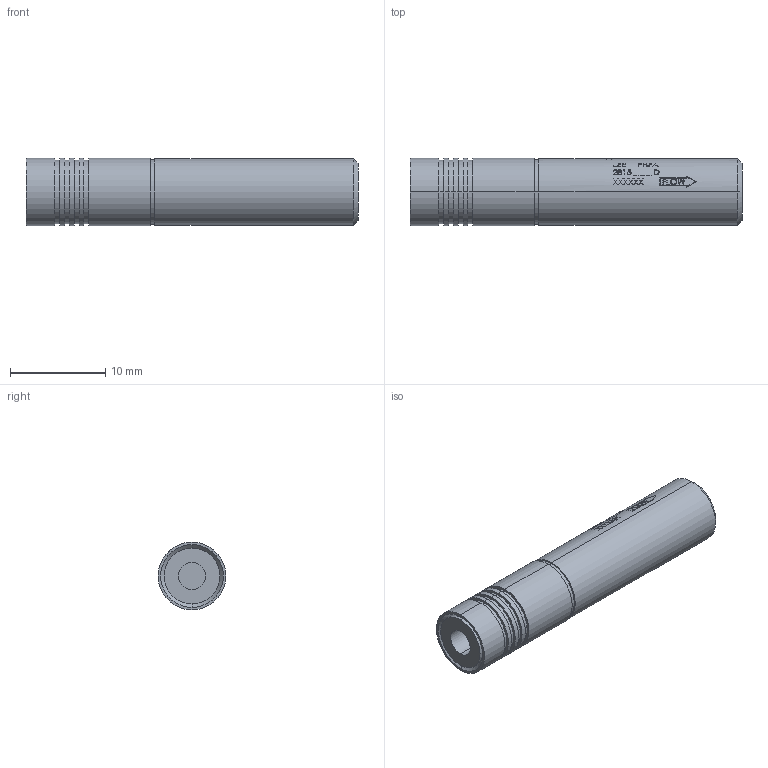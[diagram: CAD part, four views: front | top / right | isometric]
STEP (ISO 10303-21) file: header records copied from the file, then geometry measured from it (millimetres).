
FILE_DESCRIPTION (( 'STEP AP214' ), '1' );
FILE_NAME ('3DPHFA2815---D.STEP', '2021-04-01T17:20:29', ( '' ), ( '' ), 'SwSTEP 2.0', 'SolidWorks 2019', '' );
FILE_SCHEMA (( 'AUTOMOTIVE_DESIGN' ));
Length unit declared in the file: inch
Products named in the file (1): 3DPHFA2815---D
Bounding box: 34.9 x 7.14 x 7.14 mm (x, y, z)
Volume: 1305.1 mm3; surface area: 976.6 mm2
Topology: 1 solids, 1 shells, 377 faces, 980 edges, 652 vertices
Faces by surface type: plane 172, bspline 140, cylinder 61, cone 4
Entity records: 18404 total; most frequent: CARTESIAN_POINT 6054, ORIENTED_EDGE 1960, DIRECTION 1149, EDGE_CURVE 980, VERTEX_POINT 652, B_SPLINE_CURVE_WITH_KNOTS 473, EDGE_LOOP 424, AXIS2_PLACEMENT_3D 404
